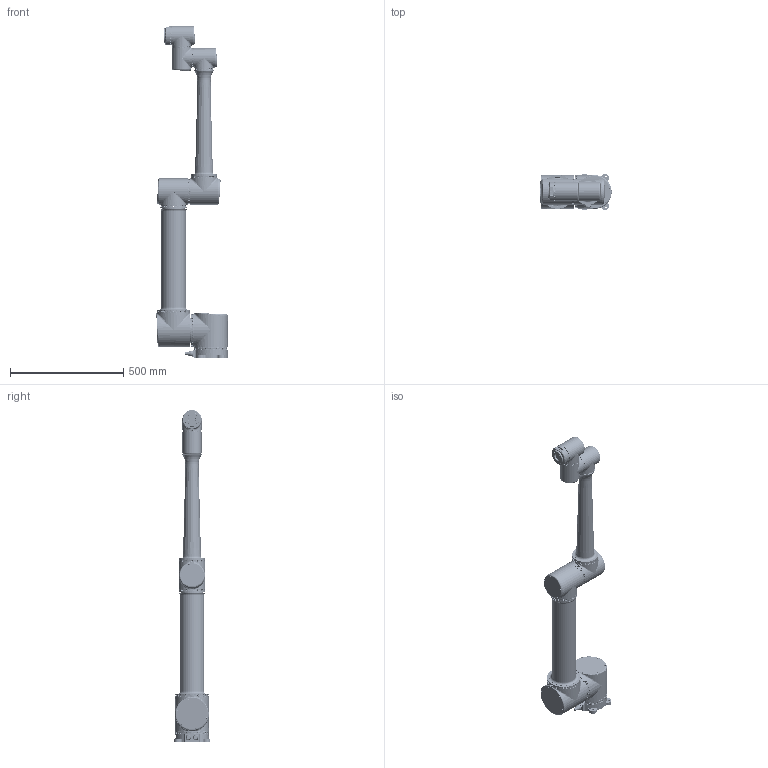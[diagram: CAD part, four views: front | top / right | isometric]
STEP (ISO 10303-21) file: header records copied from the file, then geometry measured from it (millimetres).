
FILE_DESCRIPTION (( 'STEP AP214' ), '1' );
FILE_NAME ('eRobot 10.STEP', '2026-05-21T03:55:31', ( 'Windows User' ), ( 'P R C' ), 'SwSTEP 2.0', 'SolidWorks 2021', '' );
FILE_SCHEMA (( 'AUTOMOTIVE_DESIGN' ));
Length unit declared in the file: millimetre
Products named in the file (16): 3-130-001 10kg菁釱鍼踢; eRob80H℅℅T; 瑤脣; eRob142H℅℅T; 2-130-001 10kg菁釱; 过线钣金+8mm双面护线圈; 2-130-005 10kg三关节连杆 -腰形; 2-130-003 机器人三轴输出转接; 盄擢悵誘杶; 2-130-004 机器人三轴外壳转接; 2-130-006 10kg藺傷楊擘; 2-130-002 10kg媼壽誹蟀裝; eRobot 10; 110樑粣; 瑤脣鼠芛; eRob110H℅℅T
Assembly tree (28 placements, depth 2):
  eRobot 10
    2-130-001 10kg菁釱
    3-130-001 10kg菁釱鍼踢
    eRob142H℅℅T  x2
    2-130-002 10kg媼壽誹蟀裝
    eRob110H℅℅T
    2-130-003 机器人三轴输出转接
    2-130-004 机器人三轴外壳转接
    110樑粣
    2-130-005 10kg三关节连杆 -腰形
    eRob80H℅℅T  x3
    2-130-006 10kg藺傷楊擘
    瑤脣  x2
    瑤脣鼠芛  x2
    盄擢悵誘杶  x6
    过线钣金+8mm双面护线圈  x4
Bounding box: 314.96 x 160.32 x 1465.5 mm (x, y, z)
Volume: 10372133.7 mm3; surface area: 2032258 mm2
Topology: 82 solids, 225 shells, 22874 faces, 59953 edges, 38488 vertices
Faces by surface type: plane 14258, cylinder 4234, bspline 2421, cone 1238, torus 538, sphere 185
Full cylindrical faces by diameter (mm): 1.25 x12, 1.6 x59, 1.8 x4, 2.5 x231, 3 x97, 3.2 x16, 3.3 x66, 3.4 x112, 3.5 x34, 4 x34, 4.2 x18, 4.5 x98, 5 x4, 5.5 x102, 6 x119, 6.5 x4, 6.8 x8, 7 x29, 8 x66, 8.2 x4, 9 x12, 10 x16, 11.6 x2, 15 x8, 16 x6, 17.4 x6, 17.9 x12, 18 x12, 20 x4, 20.5 x2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
Entity records: 617072 total; most frequent: CARTESIAN_POINT 202858, ORIENTED_EDGE 59398, DIRECTION 54231, EDGE_CURVE 29699, LINE 20351, VECTOR 20351, VERTEX_POINT 19729, AXIS2_PLACEMENT_3D 16940
